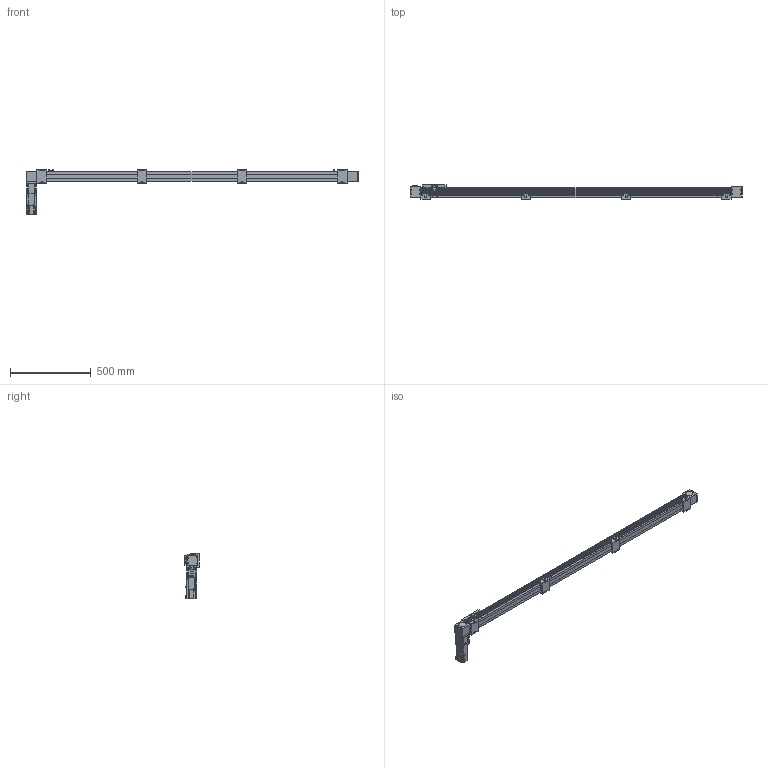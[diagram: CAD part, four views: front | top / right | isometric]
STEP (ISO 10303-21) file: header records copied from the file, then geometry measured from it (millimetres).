
FILE_DESCRIPTION(/* description */ ('STEP AP203'),/* implementation_level */ '2;1');
FILE_NAME(/* name */ 'SK60-P13-S1750-BR-T40-C1-N(0)',/* time_stamp */ '2023-04-06T04:00:24+02:00',/* author */ ('License CC BY-ND 4.0'),/* organization */ ('CADENAS'),/* preprocessor_version */ 'ST-DEVELOPER v19.3',/* originating_system */ 'PARTsolutions',/* authorisation */ ' ');
FILE_SCHEMA (('CONFIG_CONTROL_DESIGN'));
Length unit declared in the file: millimetre
Products named in the file (11): SK60-P13-S1750-BR-T40-C1-N(0); PSC140-sensor; SK60-S450_seat; SK60-S450-BL-C1_slider; SK60_body3; SK60_body6; SK60-BL_body2; T40-p1; SK60_body5; SK60_body4; SK60-S1750-BR-C1_body
Assembly tree (19 placements, depth 2):
  SK60-P13-S1750-BR-T40-C1-N(0)
    PSC140-sensor  x3
    SK60-S450_seat  x4
    SK60-S450-BL-C1_slider
    SK60_body3  x3
    SK60_body6  x2
    SK60-BL_body2  x2
    T40-p1
    SK60_body5
    SK60_body4
    SK60-S1750-BR-C1_body
Bounding box: 2050 x 90 x 279.1 mm (x, y, z)
Volume: 7570662.8 mm3; surface area: 957190.1 mm2
Topology: 19 solids, 23 shells, 922 faces, 2305 edges, 1522 vertices
Faces by surface type: plane 592, cylinder 298, cone 30, torus 2
Full cylindrical faces by diameter (mm): 2.8 x3, 3.3 x4, 4.2 x8, 4.5 x26, 4.6 x3, 4.917 x24, 5 x2, 5.478 x4, 5.5 x27, 6.5 x8, 8 x4, 8.5 x4, 9.988 x4, 10 x16, 13.556 x1, 14 x1, 14.586 x1, 19.692 x1, 38.432 x2, 43 x1, 44 x3, 47 x2, 50 x2
Entity records: 19387 total; most frequent: DIRECTION 3296, CARTESIAN_POINT 3291, ORIENTED_EDGE 3050, EDGE_CURVE 1525, AXIS2_PLACEMENT_3D 1102, LINE 1092, VECTOR 1092, VERTEX_POINT 1077
